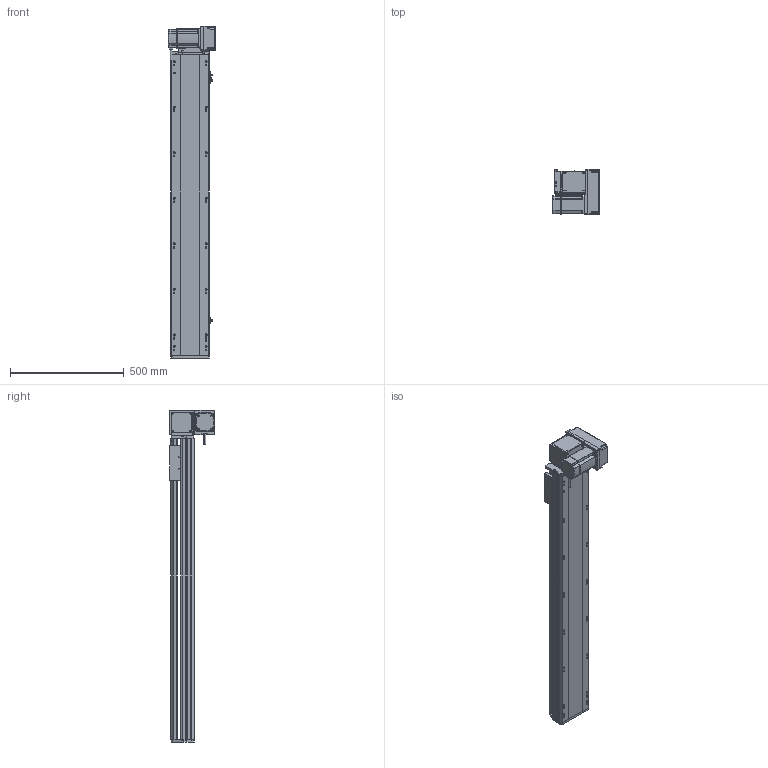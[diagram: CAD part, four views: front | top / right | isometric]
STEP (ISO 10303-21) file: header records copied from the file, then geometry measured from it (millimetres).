
FILE_DESCRIPTION (( 'STEP AP214' ), '1' );
FILE_NAME ('RTB17S-XX-1050-RM-M75-C4.STEP', '2025-12-12T02:06:22', ( '' ), ( '' ), 'SwSTEP 2.0', 'SolidWorks 2018', '' );
FILE_SCHEMA (( 'AUTOMOTIVE_DESIGN' ));
Length unit declared in the file: millimetre
Products named in the file (15): RTB17S-XX-1050-RM-M75-C4; RTB22S-GY-017P^RTB17S-RM-々湍釱蚾饜-750W_RTB17S-XX-XX-RM-M75-C4; EE672^RTB17S-XX-XX-RM-M75-C4; RTH13-BL-012覜茼え俋离^RTB17S-賑釱_RTB17S-XX-XX-RM-M75-C4; RTB17S-L-004-賑釱^RTB17S-賑釱_RTB17S-XX-XX-RM-M75-C4; RTB17S-賑釱^RTB17S-XX-XX-RM-M75-C4; RTB17S-L-007奻裔^RTB17S-XX-XX-RM-M75-C4; RTB17-R-011菁釱^RTB17S-XX-XX-RM-M75-C4; RTB17S-RM-々湍釱蚾饜-750W^RTB17S-XX-XX-RM-M75-C4; RTB17S-L-001-耜醱啣^RTB17S-XX-XX-RM-M75-C4; RTB22S-GY-005P^RTB17S-RM-々湍釱蚾饜-750W_RTB17S-XX-XX-RM-M75-C4; RTB22S-GY-018P^RTB17S-RM-々湍釱蚾饜-750W_RTB17S-XX-XX-RM-M75-C4; RTB17S-L-014-T20-P75--々湍釱^RTB17S-RM-々湍釱蚾饜-750W_RTB17S-XX-XX-RM-M75-C4; 750W萇儂^RTB17S-XX-XX-RM-M75-C4; RTB22S-GY-008-M75--萇儂啣^RTB17S-RM-々湍釱蚾饜-750W_RTB17S-XX-XX-RM-M75-C4
Assembly tree (17 placements, depth 3):
  RTB17S-XX-1050-RM-M75-C4
    RTB17-R-011菁釱^RTB17S-XX-XX-RM-M75-C4
    EE672^RTB17S-XX-XX-RM-M75-C4  x3
    RTB17S-L-001-耜醱啣^RTB17S-XX-XX-RM-M75-C4
    RTB17S-賑釱^RTB17S-XX-XX-RM-M75-C4
      RTB17S-L-004-賑釱^RTB17S-賑釱_RTB17S-XX-XX-RM-M75-C4
      RTH13-BL-012覜茼え俋离^RTB17S-賑釱_RTB17S-XX-XX-RM-M75-C4
    RTB17S-L-007奻裔^RTB17S-XX-XX-RM-M75-C4
    750W萇儂^RTB17S-XX-XX-RM-M75-C4
    RTB17S-RM-々湍釱蚾饜-750W^RTB17S-XX-XX-RM-M75-C4
      RTB17S-L-014-T20-P75--々湍釱^RTB17S-RM-々湍釱蚾饜-750W_RTB17S-XX-XX-RM-M75-C4
      RTB22S-GY-005P^RTB17S-RM-々湍釱蚾饜-750W_RTB17S-XX-XX-RM-M75-C4
      RTB22S-GY-017P^RTB17S-RM-々湍釱蚾饜-750W_RTB17S-XX-XX-RM-M75-C4  x2
      RTB22S-GY-008-M75--萇儂啣^RTB17S-RM-々湍釱蚾饜-750W_RTB17S-XX-XX-RM-M75-C4
      RTB22S-GY-018P^RTB17S-RM-々湍釱蚾饜-750W_RTB17S-XX-XX-RM-M75-C4
Bounding box: 207.4 x 200 x 1457.5 mm (x, y, z)
Volume: 12508454.8 mm3; surface area: 2134134.2 mm2
Topology: 17 solids, 17 shells, 2105 faces, 5836 edges, 3770 vertices
Faces by surface type: plane 972, cylinder 717, bspline 294, cone 110, sphere 8, torus 4
Entity records: 58870 total; most frequent: CARTESIAN_POINT 17300, ORIENTED_EDGE 8516, DIRECTION 7952, EDGE_CURVE 4258, AXIS2_PLACEMENT_3D 2790, VERTEX_POINT 2774, LINE 2372, VECTOR 2372
